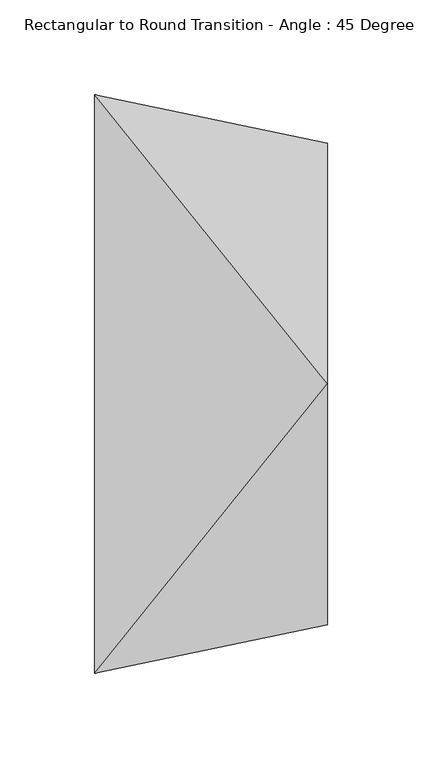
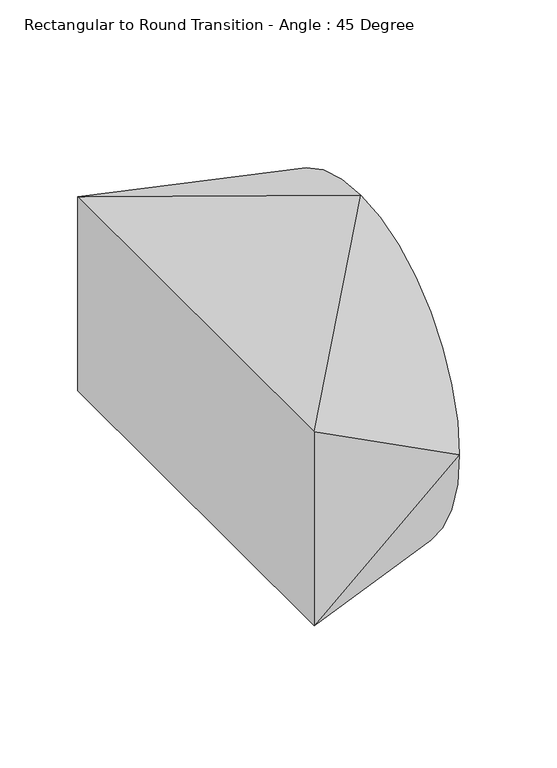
"""IFC4 building model written with IfcOpenShell, lengths in millimetres: duct fitting geometry, Rectangular to Round Transition - Angle : 45 Degree."""

import ifcopenshell
import ifcopenshell.guid

model = None  # the IFC model being written
_history = None  # IfcOwnerHistory: only IFC2X3 demands one
_inside = {}  # id of a spatial element -> (the spatial element, [elements in it])
_under = {}  # id of a project, library or spatial element -> (it, [spatial elements below it])
_declared = {}  # id of a project -> (the project, [libraries it declares])
_typed = {}  # id of a type object -> (the type object, [elements of that type])
_made_of = {}  # id of a material, layer set ... -> (it, [elements and type objects made of it])


def new_model(schema):
    """Start an empty IFC model of exactly this schema.

    Asked for "IFC4X3", IfcOpenShell would pick the latest addendum, in which some entities
    have other attributes; the version numbers below select the first issue.
    IFC2X3 requires an IfcOwnerHistory on every rooted entity: one is made here for all.
    """
    global model, _history
    if schema == "IFC4X3":
        model = ifcopenshell.file(schema_version=(4, 3, 0, 0))
    else:
        model = ifcopenshell.file(schema=schema)
    _inside.clear()
    _under.clear()
    _declared.clear()
    _typed.clear()
    _made_of.clear()
    _history = None
    if model.schema == "IFC2X3":
        org = make("IfcOrganization", Name="unknown")
        user = make(
            "IfcPersonAndOrganization",
            ThePerson=make("IfcPerson", FamilyName="unknown"),
            TheOrganization=org,
        )
        app = make(
            "IfcApplication",
            ApplicationDeveloper=org,
            Version="unknown",
            ApplicationFullName="unknown",
            ApplicationIdentifier="unknown",
        )
        _history = make(
            "IfcOwnerHistory",
            OwningUser=user,
            OwningApplication=app,
            ChangeAction="ADDED",
            CreationDate=0,
        )
    return model


def make(cls, **values):
    """One entity of the class cls with the attributes given. An attribute that is None is left unset."""
    return model.create_entity(
        cls, **{name: value for name, value in values.items() if value is not None}
    )


def rooted(cls, **values):
    """An entity with a GlobalId (a new one), such as an element, a storey or a relation."""
    return make(cls, GlobalId=ifcopenshell.guid.new(), OwnerHistory=_history, **values)


def si_unit(unit_type, name, prefix=None):
    """IfcSIUnit, for example si_unit("LENGTHUNIT", "METRE", prefix="MILLI")."""
    return make("IfcSIUnit", UnitType=unit_type, Prefix=prefix, Name=name)


def assignment(units):
    """IfcUnitAssignment: the units of a project."""
    return None if units is None else make("IfcUnitAssignment", Units=units)


def point(xyz):
    """IfcCartesianPoint."""
    return None if xyz is None else make("IfcCartesianPoint", Coordinates=xyz)


def direction(xyz):
    """IfcDirection."""
    return None if xyz is None else make("IfcDirection", DirectionRatios=xyz)


def frame(location, z_axis=None, x_axis=None):
    """IfcAxis2Placement3D, a coordinate frame: its origin and axes. An axis left out is left unset."""
    return make(
        "IfcAxis2Placement3D",
        Location=point(location),
        Axis=direction(z_axis),
        RefDirection=direction(x_axis),
    )


def origin():
    """The frame at (0, 0, 0) with its axes left unset."""
    return frame((0.0, 0.0, 0.0))


def place(relative_to, where):
    """IfcLocalPlacement: puts the frame where relative to a parent placement (None: the world)."""
    return make(
        "IfcLocalPlacement", PlacementRelTo=relative_to, RelativePlacement=where
    )


def context(
    kind, dimensions, precision=None, world=None, true_north=None, identifier=None
):
    """IfcGeometricRepresentationContext, for example the 3D "Model" context."""
    return make(
        "IfcGeometricRepresentationContext",
        ContextIdentifier=identifier,
        ContextType=kind,
        CoordinateSpaceDimension=dimensions,
        Precision=precision,
        WorldCoordinateSystem=world,
        TrueNorth=true_north,
    )


def project(units=None, contexts=None):
    """IfcProject with its units and contexts."""
    return rooted(
        "IfcProject",
        Name="project",
        RepresentationContexts=contexts,
        UnitsInContext=assignment(units),
    )


def spatial(cls, under=None, at=None, **own):
    """A site, building, storey or space (cls), placed at a placement, below another one or the project."""
    s = rooted(cls, ObjectPlacement=at, **own)
    if under is not None:
        _under.setdefault(under.id(), (under, []))[1].append(s)
    return s


def circle_curve(where, radius):
    """IfcCircle in the frame where."""
    return make("IfcCircle", Position=where, Radius=radius)


def shape(context_of_items, identifier, shape_type, items):
    """IfcShapeRepresentation: the items that make up one representation, for example the "Body"."""
    return make(
        "IfcShapeRepresentation",
        ContextOfItems=context_of_items,
        RepresentationIdentifier=identifier,
        RepresentationType=shape_type,
        Items=items,
    )


def source(mapping_origin, context_of_items, identifier, shape_type, items):
    """IfcRepresentationMap: a shape defined once, which mapped items show again and again."""
    return make(
        "IfcRepresentationMap",
        MappingOrigin=mapping_origin,
        MappedRepresentation=shape(context_of_items, identifier, shape_type, items),
    )


def transform(
    local_origin,
    x_axis=None,
    y_axis=None,
    z_axis=None,
    scale=None,
    scale2=None,
    scale3=None,
    uniform=True,
):
    """IfcCartesianTransformationOperator3D, or its non-uniform kind. x_axis, y_axis, z_axis: its Axis1, 2, 3."""
    if uniform:
        return make(
            "IfcCartesianTransformationOperator3D",
            Axis1=direction(x_axis),
            Axis2=direction(y_axis),
            LocalOrigin=point(local_origin),
            Scale=scale,
            Axis3=direction(z_axis),
        )
    return make(
        "IfcCartesianTransformationOperator3DnonUniform",
        Axis1=direction(x_axis),
        Axis2=direction(y_axis),
        LocalOrigin=point(local_origin),
        Scale=scale,
        Axis3=direction(z_axis),
        Scale2=scale2,
        Scale3=scale3,
    )


def mapped(mapping_source, mapping_target):
    """IfcMappedItem: shows the shape of a source again, moved by a transform."""
    return make(
        "IfcMappedItem", MappingSource=mapping_source, MappingTarget=mapping_target
    )


def made_of(thing, what):
    """Note that an element or type object is made of a material, layer set ...; save() writes the relation."""
    if what is not None:
        _made_of.setdefault(what.id(), (what, []))[1].append(thing)
    return thing


def element(
    cls,
    number,
    at=None,
    inside=None,
    cuts=None,
    type_object=None,
    material=None,
    context=None,
    identifier="Body",
    shape_type=None,
    held_by="IfcProductDefinitionShape",
    body=None,
    shapes=None,
    **own,
):
    """One element of the class cls, such as IfcWall. Its Tag is "e" and its number.

    at: its placement. inside: the storey or other place that contains it. cuts: it is an
    opening in that element (IfcRelVoidsElement). A single representation is given by context,
    identifier, shape_type and body (its items); several are given by shapes. held_by: the class
    of the entity that holds the representations. save() writes the other relations.
    """
    e = rooted(cls, Tag="e%d" % number, ObjectPlacement=at, **own)
    if body is not None:
        shapes = [shape(context, identifier, shape_type, body)]
    if shapes is not None:
        e.Representation = make(held_by, Representations=shapes)
    if inside is not None:
        _inside.setdefault(inside.id(), (inside, []))[1].append(e)
    if cuts is not None:
        rooted(
            "IfcRelVoidsElement", RelatingBuildingElement=cuts, RelatedOpeningElement=e
        )
    if type_object is not None:
        _typed.setdefault(type_object.id(), (type_object, []))[1].append(e)
    return made_of(e, material)


def aggregate(whole, parts):
    """IfcRelAggregates: a whole, such as a stair, and the parts it consists of."""
    return rooted("IfcRelAggregates", RelatingObject=whole, RelatedObjects=parts)


def save(model, path):
    """Write the relations noted so far, then the file.

    IfcRelAggregates (storeys below a building ...), IfcRelContainedInSpatialStructure (elements
    in a storey), IfcRelDefinesByType, IfcRelAssociatesMaterial and IfcRelDeclares: one each for
    every whole, place, type object, material and project.
    """
    for whole, parts in _under.values():
        aggregate(whole, parts)
    for where, things in _inside.values():
        rooted(
            "IfcRelContainedInSpatialStructure",
            RelatedElements=things,
            RelatingStructure=where,
        )
    for kind, things in _typed.values():
        rooted("IfcRelDefinesByType", RelatedObjects=things, RelatingType=kind)
    for what, things in _made_of.values():
        rooted("IfcRelAssociatesMaterial", RelatedObjects=things, RelatingMaterial=what)
    for by, libraries in _declared.values():
        rooted("IfcRelDeclares", RelatingContext=by, RelatedDefinitions=libraries)
    model.write(path)


def plane_surface(at):
    """IfcPlane: the flat surface through the origin of the frame at, square to its z axis."""
    return make("IfcPlane", Position=at)


def spline_surface(u_degree, v_degree, points, u_multiplicities, v_multiplicities, u_knots, v_knots, weights=None):
    """IfcBSplineSurfaceWithKnots; with weights, IfcRationalBSplineSurfaceWithKnots. points: one row for each step in u."""
    own = dict(
        UDegree=u_degree,
        VDegree=v_degree,
        ControlPointsList=[[point(p) for p in row] for row in points],
        SurfaceForm="UNSPECIFIED",
        UClosed=False,
        VClosed=False,
        SelfIntersect=False,
        UMultiplicities=u_multiplicities,
        VMultiplicities=v_multiplicities,
        UKnots=u_knots,
        VKnots=v_knots,
        KnotSpec="UNSPECIFIED",
    )
    if weights is None:
        return make("IfcBSplineSurfaceWithKnots", **own)
    return make("IfcRationalBSplineSurfaceWithKnots", WeightsData=weights, **own)


def advanced_brep(points, edges, surfaces, faces):
    """IfcAdvancedBrep: a solid bounded by faces that lie on surfaces and meet in shared edges.

    An edge is (start, end): straight between two places in points (the first is 0);
    or (start, end, curve); or (start, end, curve, False) where it runs against its curve.
    A face is (place in surfaces, loops), or (place, loops, False) where it looks against
    its surface's normal. A loop lists edges by number (the first is 1), with a minus sign
    where the edge is run from its end to its start. The first loop is the outer one.
    """
    corners = [point(p) for p in points]
    vertices = [make("IfcVertexPoint", VertexGeometry=c) for c in corners]
    made = []
    for start, end, *more in edges:
        made.append(
            make(
                "IfcEdgeCurve",
                EdgeStart=vertices[start],
                EdgeEnd=vertices[end],
                EdgeGeometry=more[0] if more else make("IfcPolyline", Points=[corners[start], corners[end]]),
                SameSense=more[1] if len(more) > 1 else True,
            )
        )
    hull = []
    for where, loops, *sense in faces:
        bounds = []
        for j, loop in enumerate(loops):
            ring = [make("IfcOrientedEdge", EdgeElement=made[abs(k) - 1], Orientation=k > 0) for k in loop]
            bounds.append(
                make(
                    "IfcFaceOuterBound" if j == 0 else "IfcFaceBound",
                    Bound=make("IfcEdgeLoop", EdgeList=ring),
                    Orientation=True,
                )
            )
        hull.append(make("IfcAdvancedFace", Bounds=bounds, FaceSurface=surfaces[where], SameSense=sense[0] if sense else True))
    return make("IfcAdvancedBrep", Outer=make("IfcClosedShell", CfsFaces=hull))


def rectangular_to_round_transition_angle_45_degree_789dc1ad(model_context):
    return source(origin(), model_context, "Body", "AdvancedBrep", [
        advanced_brep(
        [(122.642049, 0.0, 127.0), (122.642049, -127.0, 0.0), (122.642049, 0.0, -127.0), (122.642049, 127.0, 0.0), (0.0, -152.4, 76.2), (0.0, 152.4, 76.2), (0.0, 152.4, -76.2), (0.0, -152.4, -76.2)],
        [
            (0, 1, circle_curve(frame((122.642049, 0.0, 0.0), z_axis=(1.0, 0.0, 0.0), x_axis=(0.0, 1.0, 0.0)), 127.0)),
            (1, 2, circle_curve(frame((122.642049, 0.0, 0.0), z_axis=(1.0, 0.0, 0.0), x_axis=(0.0, 1.0, 0.0)), 127.0)),
            (2, 3, circle_curve(frame((122.642049, 0.0, 0.0), z_axis=(1.0, 0.0, 0.0), x_axis=(0.0, 1.0, 0.0)), 127.0)),
            (3, 0, circle_curve(frame((122.642049, 0.0, 0.0), z_axis=(1.0, 0.0, 0.0), x_axis=(0.0, 1.0, 0.0)), 127.0)),
            (4, 5),
            (5, 6),
            (6, 7),
            (7, 4),
            (0, 4),
            (4, 1),
            (7, 1),
            (7, 2),
            (6, 2),
            (6, 3),
            (5, 3),
            (5, 0),
        ],
        [
            plane_surface(frame((122.642049, 0.0, 0.0), z_axis=(1.0, 0.0, 0.0), x_axis=(0.0, 0.0, -1.0))),
            plane_surface(frame((0.0, 0.0, 0.0), z_axis=(-1.0, 0.0, 0.0), x_axis=(0.0, 0.0, -1.0))),
            spline_surface(2, 1, [[(0.0, -152.4, 76.2), (122.642049, 0.0, 127.0)], [(0.0, -152.4, 76.2), (122.642049, -127.0, 127.0)], [(0.0, -152.4, 76.2), (122.642049, -127.0, 0.0)]], [3, 3], [2, 2], [0.0, 1.0], [0.0, 1.0], weights=[[1.0, 1.0], [0.7071067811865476, 0.7071067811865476], [1.0, 1.0]]),
            plane_surface(frame((0.0, -152.4, 0.0), z_axis=(0.20280301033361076, -0.9792195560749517, 0.0), x_axis=(0.0, 0.0, -1.0))),
            spline_surface(2, 1, [[(0.0, -152.4, -76.2), (122.642049, -127.0, 0.0)], [(0.0, -152.4, -76.2), (122.642049, -127.0, -127.0)], [(0.0, -152.4, -76.2), (122.642049, 0.0, -127.0)]], [3, 3], [2, 2], [0.0, 1.0], [0.0, 1.0], weights=[[1.0, 1.0], [0.7071067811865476, 0.7071067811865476], [1.0, 1.0]]),
            plane_surface(frame((0.0, 0.0, -76.2), z_axis=(-0.3826834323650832, 0.0, -0.9238795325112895), x_axis=(0.0, 1.0, 0.0))),
            spline_surface(2, 1, [[(0.0, 152.4, -76.2), (122.642049, 0.0, -127.0)], [(0.0, 152.4, -76.2), (122.642049, 127.0, -127.0)], [(0.0, 152.4, -76.2), (122.642049, 127.0, 0.0)]], [3, 3], [2, 2], [0.0, 1.0], [0.0, 1.0], weights=[[1.0, 1.0], [0.7071067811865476, 0.7071067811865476], [1.0, 1.0]]),
            plane_surface(frame((0.0, 152.4, 0.0), z_axis=(0.2028030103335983, 0.9792195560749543, 0.0), x_axis=(0.0, 0.0, 1.0))),
            spline_surface(2, 1, [[(0.0, 152.4, 76.2), (122.642049, 127.0, 0.0)], [(0.0, 152.4, 76.2), (122.642049, 127.0, 127.0)], [(0.0, 152.4, 76.2), (122.642049, 0.0, 127.0)]], [3, 3], [2, 2], [0.0, 1.0], [0.0, 1.0], weights=[[1.0, 1.0], [0.7071067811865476, 0.7071067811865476], [1.0, 1.0]]),
            plane_surface(frame((0.0, 0.0, 76.2), z_axis=(-0.38268343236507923, 0.0, 0.9238795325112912), x_axis=(0.0, -1.0, 0.0))),
        ],
        [
            (0, [[1, 2, 3, 4]]),
            (1, [[5, 6, 7, 8]]),
            (2, [[-1, 9, 10]]),
            (3, [[-8, 11, -10]]),
            (4, [[-2, -11, 12]]),
            (5, [[-7, 13, -12]]),
            (6, [[-3, -13, 14]]),
            (7, [[-6, 15, -14]]),
            (8, [[-4, -15, 16]]),
            (9, [[-5, -9, -16]]),
        ],
    ),
    ])


if __name__ == "__main__":
    model = new_model("IFC4")
    model_context = context("Model", 3, world=origin())
    ifc_project = project(units=[si_unit("LENGTHUNIT", "METRE", prefix="MILLI")], contexts=[model_context])
    site = spatial("IfcSite", under=ifc_project)
    building = spatial("IfcBuilding", under=site)
    placement = place(None, origin())
    rectangular_to_round_transition_angle_45_degree_shape = rectangular_to_round_transition_angle_45_degree_789dc1ad(model_context)
    element("IfcDuctFitting", 1, ObjectType="Rectangular to Round Transition - Angle : 45 Degree", at=placement, inside=building, context=model_context, shape_type="MappedRepresentation", body=[
        mapped(rectangular_to_round_transition_angle_45_degree_shape, transform((0.0, 0.0, 0.0), x_axis=(1.0, 0.0, 0.0), y_axis=(0.0, 1.0, 0.0), z_axis=(0.0, 0.0, 1.0))),
    ])
    save(model, "model.ifc")
